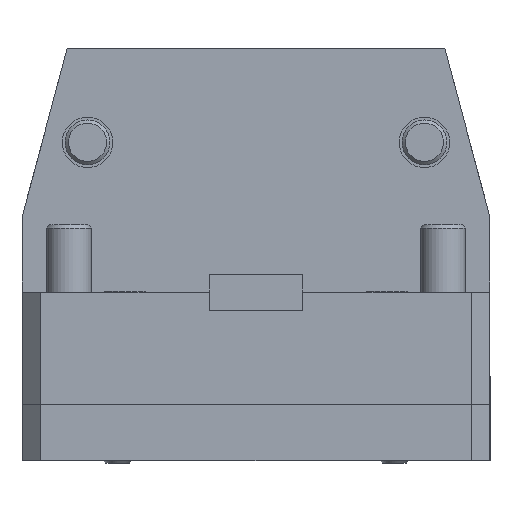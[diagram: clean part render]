
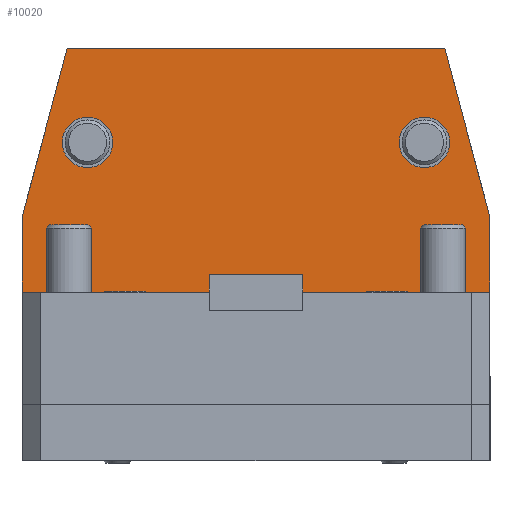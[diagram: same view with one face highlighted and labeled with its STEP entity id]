
A CAD part, left-side view. The second image highlights one B-rep face of the part: STEP entity #10020.
In plain terms, the highlighted planar face has unit normal (-1, 0, 0).
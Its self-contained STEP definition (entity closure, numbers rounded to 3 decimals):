
#4451=CIRCLE('',#9493,6.75);
#4452=CIRCLE('',#9494,6.75);
#4615=VECTOR('',#7505,1.);
#4637=VECTOR('',#7551,1.);
#4640=VECTOR('',#7556,1.);
#4641=VECTOR('',#7557,1.);
#4642=VECTOR('',#7558,1.);
#4643=VECTOR('',#7559,1.);
#4905=LINE('',#8562,#4615);
#4927=LINE('',#8618,#4637);
#4930=LINE('',#8624,#4640);
#4931=LINE('',#8626,#4641);
#4932=LINE('',#8628,#4642);
#4933=LINE('',#8629,#4643);
#5255=ORIENTED_EDGE('',*,*,#6407,.F.);
#5256=ORIENTED_EDGE('',*,*,#6438,.F.);
#5257=ORIENTED_EDGE('',*,*,#6439,.F.);
#5258=ORIENTED_EDGE('',*,*,#6440,.T.);
#5259=ORIENTED_EDGE('',*,*,#6441,.T.);
#5260=ORIENTED_EDGE('',*,*,#6435,.F.);
#5261=ORIENTED_EDGE('',*,*,#6442,.T.);
#5262=ORIENTED_EDGE('',*,*,#6443,.T.);
#6090=VERTEX_POINT('',#8559);
#6091=VERTEX_POINT('',#8561);
#6113=VERTEX_POINT('',#8617);
#6115=VERTEX_POINT('',#8623);
#6116=VERTEX_POINT('',#8625);
#6117=VERTEX_POINT('',#8627);
#6118=VERTEX_POINT('',#8630);
#6119=VERTEX_POINT('',#8632);
#6407=EDGE_CURVE('',#6090,#6091,#4905,.T.);
#6435=EDGE_CURVE('',#6091,#6113,#4927,.T.);
#6438=EDGE_CURVE('',#6115,#6090,#4930,.T.);
#6439=EDGE_CURVE('',#6116,#6115,#4931,.T.);
#6440=EDGE_CURVE('',#6116,#6117,#4932,.T.);
#6441=EDGE_CURVE('',#6117,#6113,#4933,.T.);
#6442=EDGE_CURVE('',#6118,#6118,#4451,.T.);
#6443=EDGE_CURVE('',#6119,#6119,#4452,.T.);
#6832=EDGE_LOOP('',(#5255,#5256,#5257,#5258,#5259,#5260));
#6833=EDGE_LOOP('',(#5261));
#6834=EDGE_LOOP('',(#5262));
#7150=FACE_BOUND('',#6832,.T.);
#7151=FACE_BOUND('',#6833,.T.);
#7152=FACE_BOUND('',#6834,.T.);
#7505=DIRECTION('',(0.,-100.885,0.));
#7551=DIRECTION('',(0.,-12.058,-45.));
#7554=DIRECTION('',(-1.,0.,0.));
#7555=DIRECTION('',(0.,1.,0.));
#7556=DIRECTION('',(0.,-12.058,45.));
#7557=DIRECTION('',(0.,0.,20.));
#7558=DIRECTION('',(0.,-125.,0.));
#7559=DIRECTION('',(0.,0.,20.));
#7560=DIRECTION('',(1.,0.,0.));
#7561=DIRECTION('',(0.,0.,-6.75));
#7562=DIRECTION('',(1.,0.,0.));
#7563=DIRECTION('',(0.,0.,-6.75));
#8559=CARTESIAN_POINT('',(70.,50.442,76.));
#8561=CARTESIAN_POINT('',(70.,-50.442,76.));
#8562=CARTESIAN_POINT('',(70.,50.442,76.));
#8617=CARTESIAN_POINT('',(70.,-62.5,31.));
#8618=CARTESIAN_POINT('',(70.,-50.442,76.));
#8622=CARTESIAN_POINT('',(70.,50.442,76.));
#8623=CARTESIAN_POINT('',(70.,62.5,31.));
#8624=CARTESIAN_POINT('',(70.,62.5,31.));
#8625=CARTESIAN_POINT('',(70.,62.5,11.));
#8626=CARTESIAN_POINT('',(70.,62.5,11.));
#8627=CARTESIAN_POINT('',(70.,-62.5,11.));
#8628=CARTESIAN_POINT('',(70.,62.5,11.));
#8629=CARTESIAN_POINT('',(70.,-62.5,11.));
#8630=CARTESIAN_POINT('',(70.,-45.,44.25));
#8631=CARTESIAN_POINT('',(70.,-45.,51.));
#8632=CARTESIAN_POINT('',(70.,45.,44.25));
#8633=CARTESIAN_POINT('',(70.,45.,51.));
#9492=AXIS2_PLACEMENT_3D('',#8622,#7554,#7555);
#9493=AXIS2_PLACEMENT_3D('',#8631,#7560,#7561);
#9494=AXIS2_PLACEMENT_3D('',#8633,#7562,#7563);
#9852=PLANE('',#9492);
#10020=ADVANCED_FACE('',(#7150,#7151,#7152),#9852,.T.);
